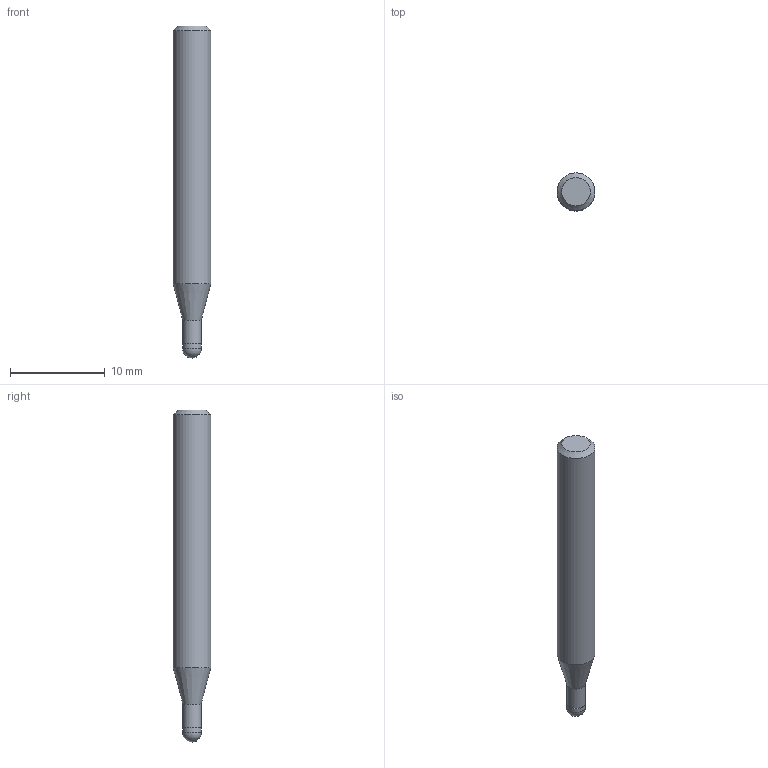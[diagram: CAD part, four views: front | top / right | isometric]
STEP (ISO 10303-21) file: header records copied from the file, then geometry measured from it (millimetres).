
FILE_DESCRIPTION((''),'2;1');
FILE_NAME('C:\Users\nsx150\AppData\Local\Temp\Mastercam 2021\QT8KEW0Y7J\TEMP.step','2021-04-23T11:21:28',(''),(''),'STEP Write','Mastercam 2021 ... CNC Software, Inc.','');
FILE_SCHEMA(('AUTOMOTIVE_DESIGN'));
Length unit declared in the file: millimetre
Products named in the file (1): None
Bounding box: 4 x 4 x 35 mm (x, y, z)
Volume: 378.6 mm3; surface area: 417.7 mm2
Topology: 2 solids, 2 shells, 9 faces, 14 edges, 8 vertices
Faces by surface type: plane 3, cylinder 3, cone 2, sphere 1
Full cylindrical faces by diameter (mm): 1.94 x1, 2 x1, 4 x1
Entity records: 211 total; most frequent: DIRECTION 36, CARTESIAN_POINT 25, AXIS2_PLACEMENT_3D 18, ORIENTED_EDGE 14, EDGE_LOOP 14, STYLED_ITEM 12, ADVANCED_FACE 9, FACE_BOUND 8
